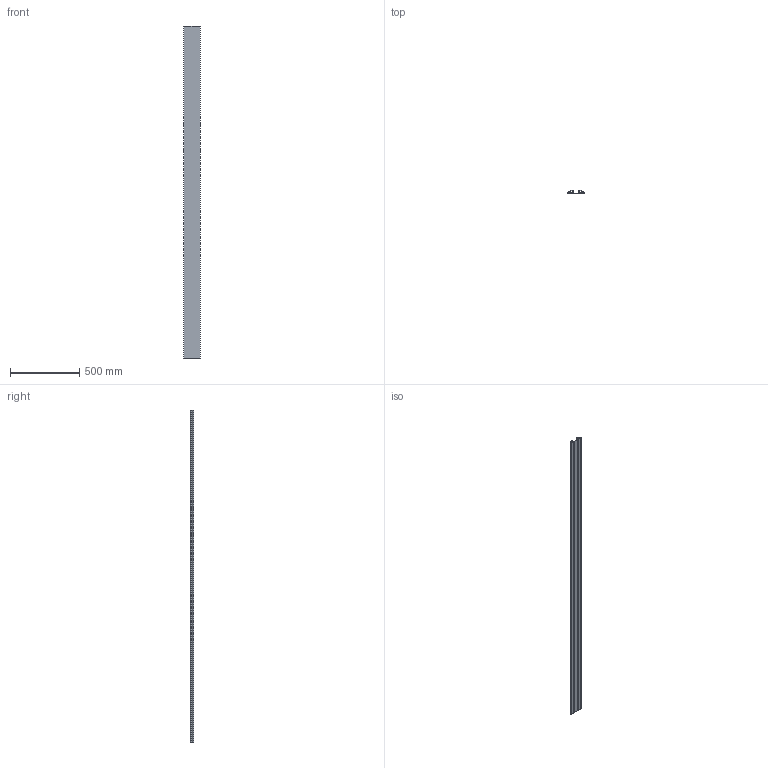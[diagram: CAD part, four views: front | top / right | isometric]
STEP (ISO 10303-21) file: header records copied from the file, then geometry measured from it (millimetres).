
FILE_DESCRIPTION(/* description */ ('STEP AP214'),/* implementation_level */ '2;1');
FILE_NAME(/* name */ '02082PO.2400',/* time_stamp */ '2026-01-21T15:37:36+01:00',/* author */ ('License CC BY-ND 4.0'),/* organization */ ('CADENAS'),/* preprocessor_version */ 'ST-DEVELOPER v20',/* originating_system */ 'PARTsolutions',/* authorisation */ ' ');
FILE_SCHEMA (('AUTOMOTIVE_DESIGN {1 0 10303 214 3 1 1}'));
Length unit declared in the file: millimetre
Products named in the file (1): 02082PO.2400
Bounding box: 120.5 x 22.7 x 2400 mm (x, y, z)
Volume: 1295263.2 mm3; surface area: 1261718.4 mm2
Topology: 1 solids, 1 shells, 92 faces, 270 edges, 180 vertices
Faces by surface type: plane 56, cylinder 36
Entity records: 3104 total; most frequent: CARTESIAN_POINT 543, ORIENTED_EDGE 540, DIRECTION 528, EDGE_CURVE 270, LINE 198, VECTOR 198, VERTEX_POINT 180, AXIS2_PLACEMENT_3D 165
